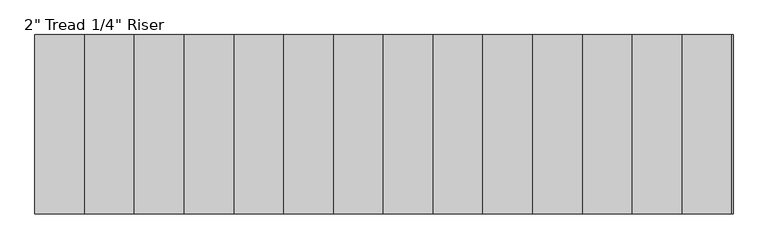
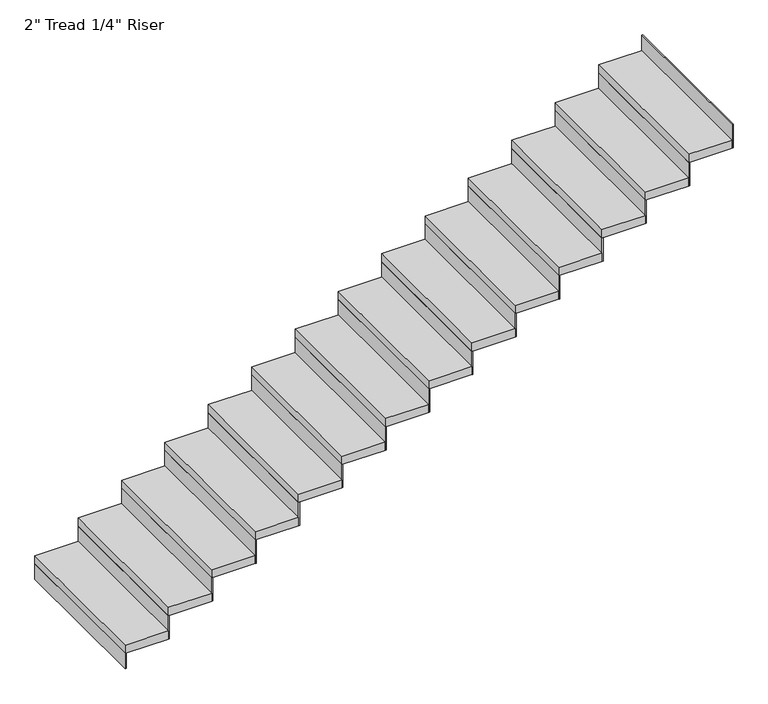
"""IFC4 building model written with IfcOpenShell, lengths in millimetres: stair flight geometry."""

from ifc_helpers import new_model, si_unit, frame, origin, origin_with_axes, place, context, project, spatial, polyline, outline, extrude, source, transform, mapped, element, save


def stair_flight_547852eb(model_context):
    return source(origin(), model_context, "Body", "SweptSolid", [
        extrude(outline(polyline([(12662.9535021, 43330.9361774), (12656.6035021, 43330.9361774), (12656.6035021, 44245.3361774), (12662.9535021, 44245.3361774), (12662.9535021, 43330.9361774)])), origin_with_axes(), (0.0, 0.0, 1.0), 94.3428571),
        extrude(outline(polyline([(12910.6035021, 44245.3361774), (12910.6035021, 43330.9361774), (12656.6035021, 43330.9361774), (12656.6035021, 44245.3361774), (12910.6035021, 44245.3361774)])), frame((0.0, 0.0, 94.3428571), z_axis=(0.0, 0.0, 1.0), x_axis=(1.0, 0.0, 0.0)), (0.0, 0.0, 1.0), 50.8),
        extrude(outline(polyline([(12916.9535021, 43330.9361774), (12910.6035021, 43330.9361774), (12910.6035021, 44245.3361774), (12916.9535021, 44245.3361774), (12916.9535021, 43330.9361774)])), frame((0.0, 0.0, 94.3428571), z_axis=(0.0, 0.0, 1.0), x_axis=(1.0, 0.0, 0.0)), (0.0, 0.0, 1.0), 145.1428571),
        extrude(outline(polyline([(13164.6035021, 44245.3361774), (13164.6035021, 43330.9361774), (12910.6035021, 43330.9361774), (12910.6035021, 44245.3361774), (13164.6035021, 44245.3361774)])), frame((0.0, 0.0, 239.4857143), z_axis=(0.0, 0.0, 1.0), x_axis=(1.0, 0.0, 0.0)), (0.0, 0.0, 1.0), 50.8),
        extrude(outline(polyline([(13170.9535021, 43330.9361774), (13164.6035021, 43330.9361774), (13164.6035021, 44245.3361774), (13170.9535021, 44245.3361774), (13170.9535021, 43330.9361774)])), frame((0.0, 0.0, 239.4857143), z_axis=(0.0, 0.0, 1.0), x_axis=(1.0, 0.0, 0.0)), (0.0, 0.0, 1.0), 145.1428571),
        extrude(outline(polyline([(13418.6035021, 44245.3361774), (13418.6035021, 43330.9361774), (13164.6035021, 43330.9361774), (13164.6035021, 44245.3361774), (13418.6035021, 44245.3361774)])), frame((0.0, 0.0, 384.6285714), z_axis=(0.0, 0.0, 1.0), x_axis=(1.0, 0.0, 0.0)), (0.0, 0.0, 1.0), 50.8),
        extrude(outline(polyline([(13424.9535021, 43330.9361774), (13418.6035021, 43330.9361774), (13418.6035021, 44245.3361774), (13424.9535021, 44245.3361774), (13424.9535021, 43330.9361774)])), frame((0.0, 0.0, 384.6285714), z_axis=(0.0, 0.0, 1.0), x_axis=(1.0, 0.0, 0.0)), (0.0, 0.0, 1.0), 145.1428571),
        extrude(outline(polyline([(13672.6035021, 44245.3361774), (13672.6035021, 43330.9361774), (13418.6035021, 43330.9361774), (13418.6035021, 44245.3361774), (13672.6035021, 44245.3361774)])), frame((0.0, 0.0, 529.7714286), z_axis=(0.0, 0.0, 1.0), x_axis=(1.0, 0.0, 0.0)), (0.0, 0.0, 1.0), 50.8),
        extrude(outline(polyline([(13678.9535021, 43330.9361774), (13672.6035021, 43330.9361774), (13672.6035021, 44245.3361774), (13678.9535021, 44245.3361774), (13678.9535021, 43330.9361774)])), frame((0.0, 0.0, 529.7714286), z_axis=(0.0, 0.0, 1.0), x_axis=(1.0, 0.0, 0.0)), (0.0, 0.0, 1.0), 145.1428571),
        extrude(outline(polyline([(13926.6035021, 44245.3361774), (13926.6035021, 43330.9361774), (13672.6035021, 43330.9361774), (13672.6035021, 44245.3361774), (13926.6035021, 44245.3361774)])), frame((0.0, 0.0, 674.9142857), z_axis=(0.0, 0.0, 1.0), x_axis=(1.0, 0.0, 0.0)), (0.0, 0.0, 1.0), 50.8),
        extrude(outline(polyline([(13932.9535021, 43330.9361774), (13926.6035021, 43330.9361774), (13926.6035021, 44245.3361774), (13932.9535021, 44245.3361774), (13932.9535021, 43330.9361774)])), frame((0.0, 0.0, 674.9142857), z_axis=(0.0, 0.0, 1.0), x_axis=(1.0, 0.0, 0.0)), (0.0, 0.0, 1.0), 145.1428571),
        extrude(outline(polyline([(14180.6035021, 44245.3361774), (14180.6035021, 43330.9361774), (13926.6035021, 43330.9361774), (13926.6035021, 44245.3361774), (14180.6035021, 44245.3361774)])), frame((0.0, 0.0, 820.0571429), z_axis=(0.0, 0.0, 1.0), x_axis=(1.0, 0.0, 0.0)), (0.0, 0.0, 1.0), 50.8),
        extrude(outline(polyline([(14186.9535021, 43330.9361774), (14180.6035021, 43330.9361774), (14180.6035021, 44245.3361774), (14186.9535021, 44245.3361774), (14186.9535021, 43330.9361774)])), frame((0.0, 0.0, 820.0571429), z_axis=(0.0, 0.0, 1.0), x_axis=(1.0, 0.0, 0.0)), (0.0, 0.0, 1.0), 145.1428571),
        extrude(outline(polyline([(14434.6035021, 44245.3361774), (14434.6035021, 43330.9361774), (14180.6035021, 43330.9361774), (14180.6035021, 44245.3361774), (14434.6035021, 44245.3361774)])), frame((0.0, 0.0, 965.2), z_axis=(0.0, 0.0, 1.0), x_axis=(1.0, 0.0, 0.0)), (0.0, 0.0, 1.0), 50.8),
        extrude(outline(polyline([(14440.9535021, 43330.9361774), (14434.6035021, 43330.9361774), (14434.6035021, 44245.3361774), (14440.9535021, 44245.3361774), (14440.9535021, 43330.9361774)])), frame((0.0, 0.0, 965.2), z_axis=(0.0, 0.0, 1.0), x_axis=(1.0, 0.0, 0.0)), (0.0, 0.0, 1.0), 145.1428571),
        extrude(outline(polyline([(14688.6035021, 44245.3361774), (14688.6035021, 43330.9361774), (14434.6035021, 43330.9361774), (14434.6035021, 44245.3361774), (14688.6035021, 44245.3361774)])), frame((0.0, 0.0, 1110.3428571), z_axis=(0.0, 0.0, 1.0), x_axis=(1.0, 0.0, 0.0)), (0.0, 0.0, 1.0), 50.8),
        extrude(outline(polyline([(14694.9535021, 43330.9361774), (14688.6035021, 43330.9361774), (14688.6035021, 44245.3361774), (14694.9535021, 44245.3361774), (14694.9535021, 43330.9361774)])), frame((0.0, 0.0, 1110.3428571), z_axis=(0.0, 0.0, 1.0), x_axis=(1.0, 0.0, 0.0)), (0.0, 0.0, 1.0), 145.1428571),
        extrude(outline(polyline([(14942.6035021, 44245.3361774), (14942.6035021, 43330.9361774), (14688.6035021, 43330.9361774), (14688.6035021, 44245.3361774), (14942.6035021, 44245.3361774)])), frame((0.0, 0.0, 1255.4857143), z_axis=(0.0, 0.0, 1.0), x_axis=(1.0, 0.0, 0.0)), (0.0, 0.0, 1.0), 50.8),
        extrude(outline(polyline([(14948.9535021, 43330.9361774), (14942.6035021, 43330.9361774), (14942.6035021, 44245.3361774), (14948.9535021, 44245.3361774), (14948.9535021, 43330.9361774)])), frame((0.0, 0.0, 1255.4857143), z_axis=(0.0, 0.0, 1.0), x_axis=(1.0, 0.0, 0.0)), (0.0, 0.0, 1.0), 145.1428571),
        extrude(outline(polyline([(15196.6035021, 44245.3361774), (15196.6035021, 43330.9361774), (14942.6035021, 43330.9361774), (14942.6035021, 44245.3361774), (15196.6035021, 44245.3361774)])), frame((0.0, 0.0, 1400.6285714), z_axis=(0.0, 0.0, 1.0), x_axis=(1.0, 0.0, 0.0)), (0.0, 0.0, 1.0), 50.8),
        extrude(outline(polyline([(15202.9535021, 43330.9361774), (15196.6035021, 43330.9361774), (15196.6035021, 44245.3361774), (15202.9535021, 44245.3361774), (15202.9535021, 43330.9361774)])), frame((0.0, 0.0, 1400.6285714), z_axis=(0.0, 0.0, 1.0), x_axis=(1.0, 0.0, 0.0)), (0.0, 0.0, 1.0), 145.1428571),
        extrude(outline(polyline([(15450.6035021, 44245.3361774), (15450.6035021, 43330.9361774), (15196.6035021, 43330.9361774), (15196.6035021, 44245.3361774), (15450.6035021, 44245.3361774)])), frame((0.0, 0.0, 1545.7714286), z_axis=(0.0, 0.0, 1.0), x_axis=(1.0, 0.0, 0.0)), (0.0, 0.0, 1.0), 50.8),
        extrude(outline(polyline([(15456.9535021, 43330.9361774), (15450.6035021, 43330.9361774), (15450.6035021, 44245.3361774), (15456.9535021, 44245.3361774), (15456.9535021, 43330.9361774)])), frame((0.0, 0.0, 1545.7714286), z_axis=(0.0, 0.0, 1.0), x_axis=(1.0, 0.0, 0.0)), (0.0, 0.0, 1.0), 145.1428571),
        extrude(outline(polyline([(15704.6035021, 44245.3361774), (15704.6035021, 43330.9361774), (15450.6035021, 43330.9361774), (15450.6035021, 44245.3361774), (15704.6035021, 44245.3361774)])), frame((0.0, 0.0, 1690.9142857), z_axis=(0.0, 0.0, 1.0), x_axis=(1.0, 0.0, 0.0)), (0.0, 0.0, 1.0), 50.8),
        extrude(outline(polyline([(15710.9535021, 43330.9361774), (15704.6035021, 43330.9361774), (15704.6035021, 44245.3361774), (15710.9535021, 44245.3361774), (15710.9535021, 43330.9361774)])), frame((0.0, 0.0, 1690.9142857), z_axis=(0.0, 0.0, 1.0), x_axis=(1.0, 0.0, 0.0)), (0.0, 0.0, 1.0), 145.1428571),
        extrude(outline(polyline([(15958.6035021, 44245.3361774), (15958.6035021, 43330.9361774), (15704.6035021, 43330.9361774), (15704.6035021, 44245.3361774), (15958.6035021, 44245.3361774)])), frame((0.0, 0.0, 1836.0571429), z_axis=(0.0, 0.0, 1.0), x_axis=(1.0, 0.0, 0.0)), (0.0, 0.0, 1.0), 50.8),
        extrude(outline(polyline([(15964.9535021, 43330.9361774), (15958.6035021, 43330.9361774), (15958.6035021, 44245.3361774), (15964.9535021, 44245.3361774), (15964.9535021, 43330.9361774)])), frame((0.0, 0.0, 1836.0571429), z_axis=(0.0, 0.0, 1.0), x_axis=(1.0, 0.0, 0.0)), (0.0, 0.0, 1.0), 145.1428571),
        extrude(outline(polyline([(16218.9535021, 43330.9361774), (16212.6035021, 43330.9361774), (16212.6035021, 44245.3361774), (16218.9535021, 44245.3361774), (16218.9535021, 43330.9361774)])), frame((0.0, 0.0, 1981.2), z_axis=(0.0, 0.0, 1.0), x_axis=(1.0, 0.0, 0.0)), (0.0, 0.0, 1.0), 145.1428571),
        extrude(outline(polyline([(16212.6035021, 44245.3361774), (16212.6035021, 43330.9361774), (15958.6035021, 43330.9361774), (15958.6035021, 44245.3361774), (16212.6035021, 44245.3361774)])), frame((0.0, 0.0, 1981.2), z_axis=(0.0, 0.0, 1.0), x_axis=(1.0, 0.0, 0.0)), (0.0, 0.0, 1.0), 50.8),
    ])


if __name__ == "__main__":
    model = new_model("IFC4")
    model_context = context("Model", 3, world=origin())
    ifc_project = project(units=[si_unit("LENGTHUNIT", "METRE", prefix="MILLI")], contexts=[model_context])
    site = spatial("IfcSite", under=ifc_project)
    building = spatial("IfcBuilding", under=site)
    placement = place(None, origin())
    stair_flight_shape = stair_flight_547852eb(model_context)
    element("IfcStairFlight", 1, ObjectType="2\" Tread 1/4\" Riser", at=placement, inside=building, context=model_context, shape_type="MappedRepresentation", body=[
        mapped(stair_flight_shape, transform((0.0, 0.0, 0.0), x_axis=(1.0, 0.0, 0.0), y_axis=(0.0, 1.0, 0.0), z_axis=(0.0, 0.0, 1.0))),
    ])
    save(model, "model.ifc")
